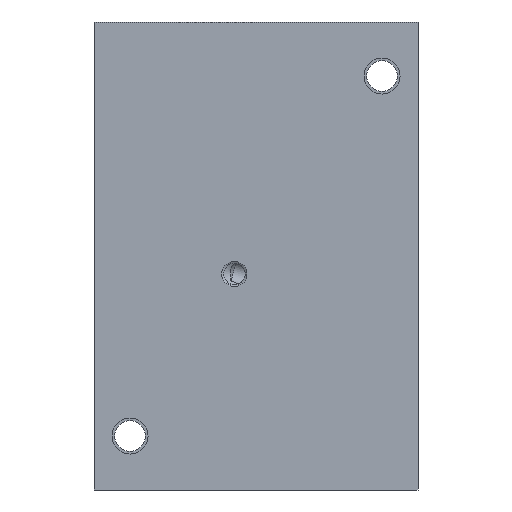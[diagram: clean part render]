
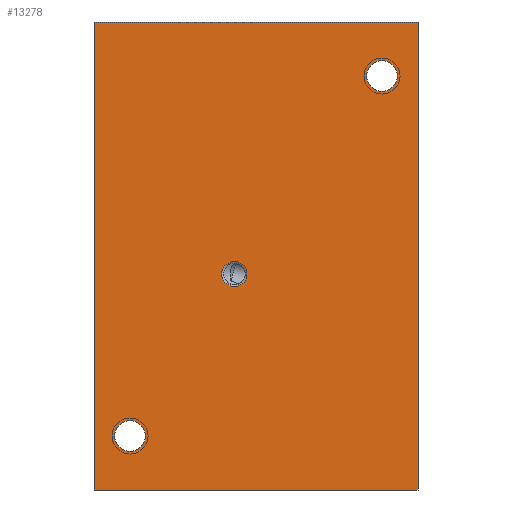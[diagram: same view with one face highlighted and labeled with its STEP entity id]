
A CAD part, front view. The second image highlights one B-rep face of the part: STEP entity #13278.
In plain terms, the highlighted planar face has unit normal (0, -1, 0).
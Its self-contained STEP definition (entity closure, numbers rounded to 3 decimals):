
#35=DIRECTION('',(1.,0.,0.));
#36=VECTOR('',#35,90.);
#37=CARTESIAN_POINT('',(-90.,0.,0.));
#38=LINE('',#37,#36);
#150=DIRECTION('',(0.,0.,-1.));
#151=VECTOR('',#150,130.);
#152=CARTESIAN_POINT('',(0.,0.,0.));
#153=LINE('',#152,#151);
#385=DIRECTION('',(1.,0.,0.));
#386=VECTOR('',#385,90.);
#387=CARTESIAN_POINT('',(-90.,0.,-130.));
#388=LINE('',#387,#386);
#5705=DIRECTION('',(0.,0.,-1.));
#5706=VECTOR('',#5705,130.);
#5707=CARTESIAN_POINT('',(-90.,0.,0.));
#5708=LINE('',#5707,#5706);
#5712=CARTESIAN_POINT('',(-80.,0.,-115.));
#5713=DIRECTION('',(0.,1.,0.));
#5714=DIRECTION('',(1.,0.,0.));
#5715=AXIS2_PLACEMENT_3D('',#5712,#5713,#5714);
#5720=CARTESIAN_POINT('',(-80.,0.,-115.));
#5721=DIRECTION('',(0.,1.,0.));
#5722=DIRECTION('',(-1.,0.,0.));
#5723=AXIS2_PLACEMENT_3D('',#5720,#5721,#5722);
#5728=CARTESIAN_POINT('',(-10.,0.,-15.));
#5729=DIRECTION('',(0.,1.,0.));
#5730=DIRECTION('',(1.,0.,0.));
#5731=AXIS2_PLACEMENT_3D('',#5728,#5729,#5730);
#5736=CARTESIAN_POINT('',(-10.,0.,-15.));
#5737=DIRECTION('',(0.,1.,0.));
#5738=DIRECTION('',(-1.,0.,0.));
#5739=AXIS2_PLACEMENT_3D('',#5736,#5737,#5738);
#5744=CARTESIAN_POINT('',(-51.,0.,-70.));
#5745=DIRECTION('',(0.,-1.,0.));
#5746=DIRECTION('',(-1.,0.,0.));
#5747=AXIS2_PLACEMENT_3D('',#5744,#5745,#5746);
#5752=CARTESIAN_POINT('',(-51.,0.,-70.));
#5753=DIRECTION('',(0.,-1.,0.));
#5754=DIRECTION('',(1.,0.,0.));
#5755=AXIS2_PLACEMENT_3D('',#5752,#5753,#5754);
#9222=CARTESIAN_POINT('',(0.,0.,0.));
#9224=VERTEX_POINT('',#9222);
#9228=CARTESIAN_POINT('',(-90.,0.,0.));
#9229=VERTEX_POINT('',#9228);
#9231=CARTESIAN_POINT('',(-90.,0.,-130.));
#9233=VERTEX_POINT('',#9231);
#9234=CARTESIAN_POINT('',(0.,0.,-130.));
#9235=VERTEX_POINT('',#9234);
#9614=CARTESIAN_POINT('',(-75.75,0.,-115.));
#9615=CARTESIAN_POINT('',(-84.25,0.,-115.));
#9616=VERTEX_POINT('',#9614);
#9617=VERTEX_POINT('',#9615);
#9618=CARTESIAN_POINT('',(-5.75,0.,-15.));
#9619=CARTESIAN_POINT('',(-14.25,0.,-15.));
#9620=VERTEX_POINT('',#9618);
#9621=VERTEX_POINT('',#9619);
#9908=CARTESIAN_POINT('',(-54.5,0.,-70.));
#9909=VERTEX_POINT('',#9908);
#9910=CARTESIAN_POINT('',(-47.5,0.,-70.));
#9911=VERTEX_POINT('',#9910);
#13250=CARTESIAN_POINT('',(-90.,0.,0.));
#13251=DIRECTION('',(0.,-1.,0.));
#13252=DIRECTION('',(1.,0.,0.));
#13253=AXIS2_PLACEMENT_3D('',#13250,#13251,#13252);
#13254=PLANE('',#13253);
#13255=ORIENTED_EDGE('',*,*,#10056,.T.);
#13256=ORIENTED_EDGE('',*,*,#10120,.T.);
#13257=ORIENTED_EDGE('',*,*,#10261,.F.);
#13259=ORIENTED_EDGE('',*,*,#13258,.F.);
#13260=EDGE_LOOP('',(#13255,#13256,#13257,#13259));
#13261=FACE_OUTER_BOUND('',#13260,.F.);
#13263=ORIENTED_EDGE('',*,*,#13262,.F.);
#13265=ORIENTED_EDGE('',*,*,#13264,.F.);
#13266=EDGE_LOOP('',(#13263,#13265));
#13267=FACE_BOUND('',#13266,.F.);
#13269=ORIENTED_EDGE('',*,*,#13268,.F.);
#13271=ORIENTED_EDGE('',*,*,#13270,.F.);
#13272=EDGE_LOOP('',(#13269,#13271));
#13273=FACE_BOUND('',#13272,.F.);
#13274=ORIENTED_EDGE('',*,*,#13232,.T.);
#13275=ORIENTED_EDGE('',*,*,#13243,.T.);
#13276=EDGE_LOOP('',(#13274,#13275));
#13277=FACE_BOUND('',#13276,.F.);
#5716=CIRCLE('',#5715,4.25);
#5724=CIRCLE('',#5723,4.25);
#5732=CIRCLE('',#5731,4.25);
#5740=CIRCLE('',#5739,4.25);
#5748=CIRCLE('',#5747,3.5);
#5756=CIRCLE('',#5755,3.5);
#10056=EDGE_CURVE('',#9229,#9224,#38,.T.);
#10120=EDGE_CURVE('',#9224,#9235,#153,.T.);
#10261=EDGE_CURVE('',#9233,#9235,#388,.T.);
#13232=EDGE_CURVE('',#9909,#9911,#5748,.T.);
#13243=EDGE_CURVE('',#9911,#9909,#5756,.T.);
#13258=EDGE_CURVE('',#9229,#9233,#5708,.T.);
#13262=EDGE_CURVE('',#9616,#9617,#5716,.T.);
#13264=EDGE_CURVE('',#9617,#9616,#5724,.T.);
#13268=EDGE_CURVE('',#9620,#9621,#5732,.T.);
#13270=EDGE_CURVE('',#9621,#9620,#5740,.T.);
#13278=ADVANCED_FACE('',(#13261,#13267,#13273,#13277),#13254,.T.);
